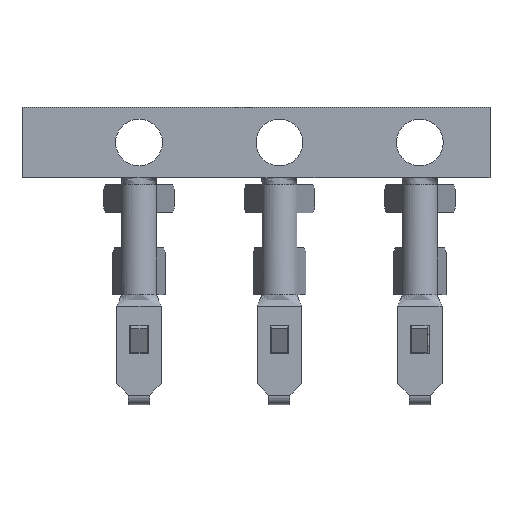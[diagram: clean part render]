
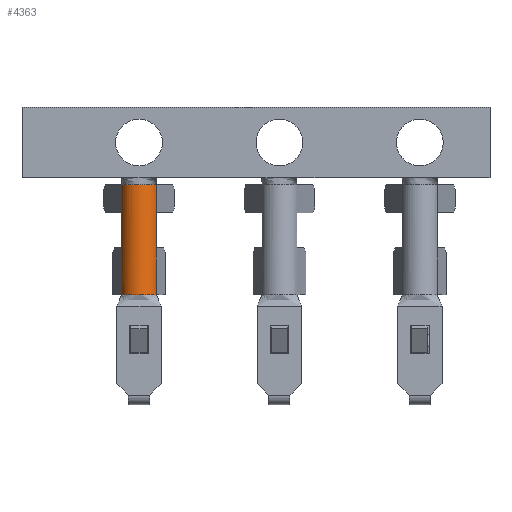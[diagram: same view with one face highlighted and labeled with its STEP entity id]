
A CAD part, front view. The second image highlights one B-rep face of the part: STEP entity #4363.
In plain terms, the highlighted cylindrical face has radius 0.8 mm (diameter 1.6 mm), a partial arc.
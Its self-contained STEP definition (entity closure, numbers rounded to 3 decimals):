
#1285 = CARTESIAN_POINT ( 'NONE',  ( -12., 0., 1.2 ) ) ;
#1287 = DIRECTION ( 'NONE',  ( 0., 0., -1. ) ) ;
#1290 = CYLINDRICAL_SURFACE ( 'NONE', #6143, 0.8 ) ;
#1291 = FACE_OUTER_BOUND ( 'NONE', #1728, .T. ) ;
#1293 = DIRECTION ( 'NONE',  ( -1., 0., 0. ) ) ;
#1728 = EDGE_LOOP ( 'NONE', ( #3385, #3313, #3522, #3369, #3576, #3680, #3514, #3523 ) ) ;
#2159 = B_SPLINE_CURVE_WITH_KNOTS ( 'NONE', 3,
 ( #2749, #2740, #2751, #2752, #2753, #2754, #2755, #2756, #2757, #2758, #2759, #2760, #2761, #2762 ),
 .UNSPECIFIED., .F., .F.,
 ( 4, 2, 2, 2, 2, 2, 4 ),
 ( 0., 0.25, 0.375, 0.5, 0.625, 0.75, 1. ),
 .UNSPECIFIED. ) ;
#2160 = B_SPLINE_CURVE_WITH_KNOTS ( 'NONE', 3,
 ( #2773, #2767, #2748, #2775, #2776, #2777, #2778, #2779, #2780, #2781, #2782, #2783, #2784, #2785 ),
 .UNSPECIFIED., .F., .F.,
 ( 4, 2, 2, 2, 2, 2, 4 ),
 ( 0., 0.25, 0.375, 0.5, 0.625, 0.75, 1. ),
 .UNSPECIFIED. ) ;
#2740 = CARTESIAN_POINT ( 'NONE',  ( -12.692, -0.42, 1.2 ) ) ;
#2748 = CARTESIAN_POINT ( 'NONE',  ( -11.391, -0.543, -3.5 ) ) ;
#2749 = CARTESIAN_POINT ( 'NONE',  ( -12.739, -0.306, 1.2 ) ) ;
#2750 = LINE ( 'NONE', #2770, #6511 ) ;
#2751 = CARTESIAN_POINT ( 'NONE',  ( -12.609, -0.543, 1.2 ) ) ;
#2752 = CARTESIAN_POINT ( 'NONE',  ( -12.417, -0.688, 1.2 ) ) ;
#2753 = CARTESIAN_POINT ( 'NONE',  ( -12.342, -0.728, 1.2 ) ) ;
#2754 = CARTESIAN_POINT ( 'NONE',  ( -12.178, -0.785, 1.2 ) ) ;
#2755 = CARTESIAN_POINT ( 'NONE',  ( -12.089, -0.8, 1.2 ) ) ;
#2756 = CARTESIAN_POINT ( 'NONE',  ( -11.911, -0.8, 1.2 ) ) ;
#2757 = CARTESIAN_POINT ( 'NONE',  ( -11.822, -0.785, 1.2 ) ) ;
#2758 = CARTESIAN_POINT ( 'NONE',  ( -11.658, -0.728, 1.2 ) ) ;
#2759 = CARTESIAN_POINT ( 'NONE',  ( -11.583, -0.688, 1.2 ) ) ;
#2760 = CARTESIAN_POINT ( 'NONE',  ( -11.391, -0.543, 1.2 ) ) ;
#2761 = CARTESIAN_POINT ( 'NONE',  ( -11.308, -0.42, 1.2 ) ) ;
#2762 = CARTESIAN_POINT ( 'NONE',  ( -11.261, -0.306, 1.2 ) ) ;
#2763 = LINE ( 'NONE', #2764, #6612 ) ;
#2764 = CARTESIAN_POINT ( 'NONE',  ( -11.261, -0.306, 1.2 ) ) ;
#2765 = DIRECTION ( 'NONE',  ( 0., 0., -1. ) ) ;
#2766 = LINE ( 'NONE', #2768, #6480 ) ;
#2767 = CARTESIAN_POINT ( 'NONE',  ( -11.308, -0.42, -3.5 ) ) ;
#2768 = CARTESIAN_POINT ( 'NONE',  ( -11.261, -0.306, -1.5 ) ) ;
#2769 = DIRECTION ( 'NONE',  ( 0., 0., 1. ) ) ;
#2770 = CARTESIAN_POINT ( 'NONE',  ( -11.261, -0.306, -3.5 ) ) ;
#2771 = DIRECTION ( 'NONE',  ( 0., 0., 1. ) ) ;
#2772 = LINE ( 'NONE', #2796, #6489 ) ;
#2773 = CARTESIAN_POINT ( 'NONE',  ( -11.261, -0.306, -3.5 ) ) ;
#2775 = CARTESIAN_POINT ( 'NONE',  ( -11.583, -0.688, -3.5 ) ) ;
#2776 = CARTESIAN_POINT ( 'NONE',  ( -11.658, -0.728, -3.5 ) ) ;
#2777 = CARTESIAN_POINT ( 'NONE',  ( -11.822, -0.785, -3.5 ) ) ;
#2778 = CARTESIAN_POINT ( 'NONE',  ( -11.911, -0.8, -3.5 ) ) ;
#2779 = CARTESIAN_POINT ( 'NONE',  ( -12.089, -0.8, -3.5 ) ) ;
#2780 = CARTESIAN_POINT ( 'NONE',  ( -12.178, -0.785, -3.5 ) ) ;
#2781 = CARTESIAN_POINT ( 'NONE',  ( -12.342, -0.728, -3.5 ) ) ;
#2782 = CARTESIAN_POINT ( 'NONE',  ( -12.417, -0.688, -3.5 ) ) ;
#2783 = CARTESIAN_POINT ( 'NONE',  ( -12.609, -0.543, -3.5 ) ) ;
#2784 = CARTESIAN_POINT ( 'NONE',  ( -12.692, -0.42, -3.5 ) ) ;
#2785 = CARTESIAN_POINT ( 'NONE',  ( -12.739, -0.306, -3.5 ) ) ;
#2786 = LINE ( 'NONE', #2787, #6389 ) ;
#2787 = CARTESIAN_POINT ( 'NONE',  ( -12.739, -0.306, -3.5 ) ) ;
#2788 = DIRECTION ( 'NONE',  ( 0., 0., 1. ) ) ;
#2789 = LINE ( 'NONE', #2791, #6603 ) ;
#2791 = CARTESIAN_POINT ( 'NONE',  ( -12.739, -0.306, -1.5 ) ) ;
#2792 = DIRECTION ( 'NONE',  ( 0., 0., 1. ) ) ;
#2796 = CARTESIAN_POINT ( 'NONE',  ( -12.739, -0.306, 1.2 ) ) ;
#2797 = DIRECTION ( 'NONE',  ( 0., 0., -1. ) ) ;
#3203 = EDGE_CURVE ( 'NONE', #5748, #5828, #2159, .T. ) ;
#3204 = EDGE_CURVE ( 'NONE', #5828, #5880, #2763, .T. ) ;
#3205 = EDGE_CURVE ( 'NONE', #5761, #5880, #2766, .T. ) ;
#3206 = EDGE_CURVE ( 'NONE', #5739, #5761, #2750, .T. ) ;
#3207 = EDGE_CURVE ( 'NONE', #5739, #5906, #2160, .T. ) ;
#3208 = EDGE_CURVE ( 'NONE', #5906, #5886, #2786, .T. ) ;
#3209 = EDGE_CURVE ( 'NONE', #5886, #5879, #2789, .T. ) ;
#3211 = EDGE_CURVE ( 'NONE', #5748, #5879, #2772, .T. ) ;
#3313 = ORIENTED_EDGE ( 'NONE', *, *, #3209, .F. ) ;
#3369 = ORIENTED_EDGE ( 'NONE', *, *, #3207, .F. ) ;
#3385 = ORIENTED_EDGE ( 'NONE', *, *, #3211, .T. ) ;
#3514 = ORIENTED_EDGE ( 'NONE', *, *, #3204, .F. ) ;
#3522 = ORIENTED_EDGE ( 'NONE', *, *, #3208, .F. ) ;
#3523 = ORIENTED_EDGE ( 'NONE', *, *, #3203, .F. ) ;
#3576 = ORIENTED_EDGE ( 'NONE', *, *, #3206, .T. ) ;
#3680 = ORIENTED_EDGE ( 'NONE', *, *, #3205, .T. ) ;
#4363 = ADVANCED_FACE ( 'NONE', ( #1291 ), #1290, .T. ) ;
#4493 = CARTESIAN_POINT ( 'NONE',  ( -11.261, -0.306, -3.5 ) ) ;
#4500 = CARTESIAN_POINT ( 'NONE',  ( -12.739, -0.306, 1.2 ) ) ;
#4512 = CARTESIAN_POINT ( 'NONE',  ( -11.261, -0.306, -1.5 ) ) ;
#4579 = CARTESIAN_POINT ( 'NONE',  ( -11.261, -0.306, 1.2 ) ) ;
#4630 = CARTESIAN_POINT ( 'NONE',  ( -12.739, -0.306, 0. ) ) ;
#4631 = CARTESIAN_POINT ( 'NONE',  ( -11.261, -0.306, 0. ) ) ;
#4637 = CARTESIAN_POINT ( 'NONE',  ( -12.739, -0.306, -1.5 ) ) ;
#4657 = CARTESIAN_POINT ( 'NONE',  ( -12.739, -0.306, -3.5 ) ) ;
#5739 = VERTEX_POINT ( 'NONE', #4493 ) ;
#5748 = VERTEX_POINT ( 'NONE', #4500 ) ;
#5761 = VERTEX_POINT ( 'NONE', #4512 ) ;
#5828 = VERTEX_POINT ( 'NONE', #4579 ) ;
#5879 = VERTEX_POINT ( 'NONE', #4630 ) ;
#5880 = VERTEX_POINT ( 'NONE', #4631 ) ;
#5886 = VERTEX_POINT ( 'NONE', #4637 ) ;
#5906 = VERTEX_POINT ( 'NONE', #4657 ) ;
#6143 = AXIS2_PLACEMENT_3D ( 'NONE', #1285, #1287, #1293 ) ;
#6389 = VECTOR ( 'NONE', #2788, 1000. ) ;
#6480 = VECTOR ( 'NONE', #2769, 1000. ) ;
#6489 = VECTOR ( 'NONE', #2797, 1000. ) ;
#6511 = VECTOR ( 'NONE', #2771, 1000. ) ;
#6603 = VECTOR ( 'NONE', #2792, 1000. ) ;
#6612 = VECTOR ( 'NONE', #2765, 1000. ) ;
